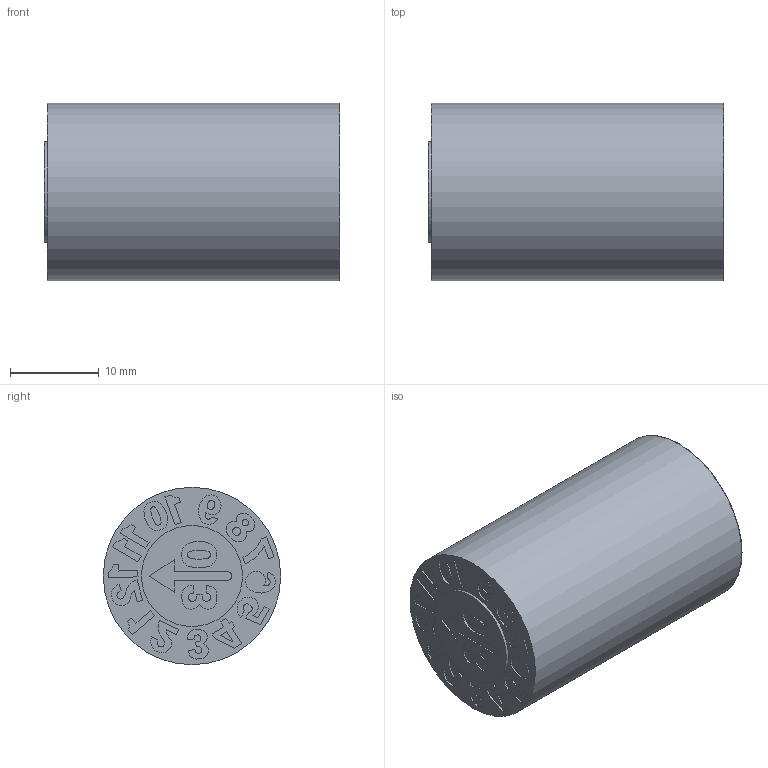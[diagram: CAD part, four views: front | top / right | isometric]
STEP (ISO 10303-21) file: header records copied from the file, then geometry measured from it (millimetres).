
FILE_DESCRIPTION( ( 'STEP AP203' ), ' ' );
FILE_NAME( 'p:/temp/worker_125/3512_3620/app_90_12017012413424619004990260eae72_000000_00_00_000000/format_0/YMN 20(0.35).stp', '2017-01-24T12:43:01', ( '' ), ( '' ), ' ', 'PARTsolutions', ' ' );
FILE_SCHEMA( ( 'CONFIG_CONTROL_DESIGN' ) );
Length unit declared in the file: millimetre
Products named in the file (3): YMN 20(0.35); _YMN 20(0.35)1; _YMN 20(0.35)2
Assembly tree (2 placements, depth 2):
  YMN 20(0.35)
    _YMN 20(0.35)1
    _YMN 20(0.35)2
Bounding box: 33.35 x 20 x 20 mm (x, y, z)
Volume: 9255.4 mm3; surface area: 4103.6 mm2
Topology: 2 solids, 2 shells, 219 faces, 560 edges, 372 vertices
Faces by surface type: plane 128, cylinder 87, cone 3, torus 1
Full cylindrical faces by diameter (mm): 0.741 x1, 0.911 x1, 3.621 x1, 4 x1, 6.647 x1, 11.4 x2, 20 x1
Entity records: 6712 total; most frequent: DIRECTION 1170, CARTESIAN_POINT 1142, ORIENTED_EDGE 1096, EDGE_CURVE 548, AXIS2_PLACEMENT_3D 400, VERTEX_POINT 372, LINE 370, VECTOR 370
